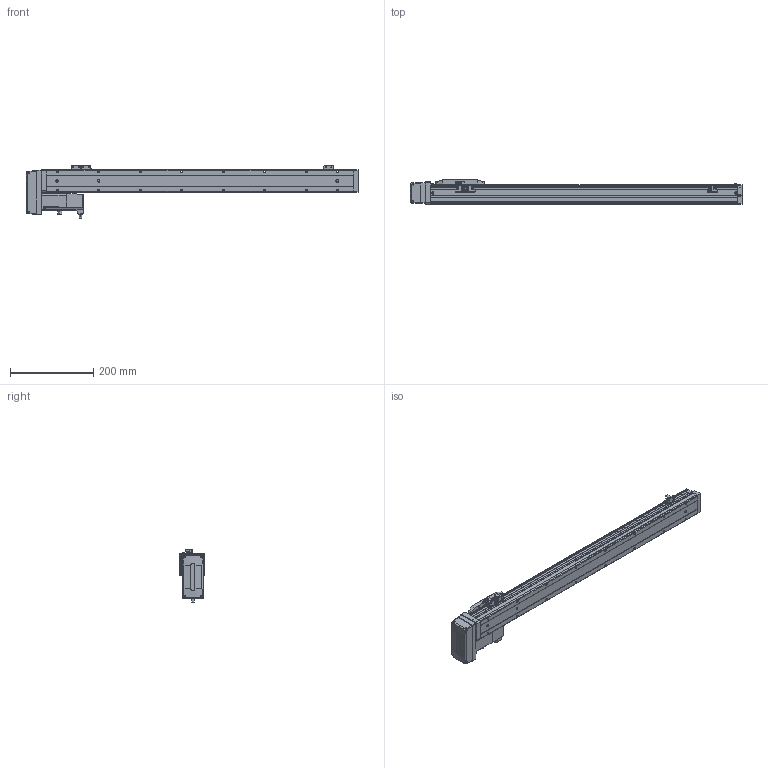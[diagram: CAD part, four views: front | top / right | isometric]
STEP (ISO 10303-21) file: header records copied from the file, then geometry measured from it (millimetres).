
FILE_DESCRIPTION (( 'STEP AP203' ), '1' );
FILE_NAME ('CTH5-L10-S600-BR-C10(¼ò).STEP', '2023-02-04T02:28:02', ( '' ), ( '' ), 'SwSTEP 2.0', 'SolidWorks 2018', '' );
FILE_SCHEMA (( 'CONFIG_CONTROL_DESIGN' ));
Length unit declared in the file: millimetre
Products named in the file (22): T10-p1; CTH5耜蚾蟀諉啣(潠); hex nuts, style 1-grades ab gb_GB_FASTENER_NUT_SNAB1 M3-N; CTH5綴耜啣; 葩璃 蚾饜极13^CTH8-L10-S50-BM-C40(潠)1; CTH5菁釱-L740; CTH嫖萇羲壽假蚾啣; CTH5耜晚蹟隊-1; M3｡｣; CTH100W假蚾啣; CTH5耜蚾欶; CTH5賑怢; 100W萇儂; CTH5-BL-T10_body5; CTH5耜晚蹟隊; 内六角圆柱头螺钉M3-2; 嫖萇羲壽郪磁1; PM-Y45; CTH5ヶ耜啣(潠); CTH5-L10-S600-BR-C10(潠); 葩璃 蚾饜极16^CTH5-L10-S600-BR-C10(潠); CTH5覜茼え
Assembly tree (37 placements, depth 4):
  CTH5-L10-S600-BR-C10(潠)
    CTH5綴耜啣
    CTH5賑怢
    CTH5ヶ耜啣(潠)
    CTH5菁釱-L740
    CTH5耜晚蹟隊  x2
    嫖萇羲壽郪磁1  x2
      CTH嫖萇羲壽假蚾啣
      PM-Y45
      M3｡｣
      内六角圆柱头螺钉M3-2
      hex nuts, style 1-grades ab gb_GB_FASTENER_NUT_SNAB1 M3-N
    CTH5覜茼え
    葩璃 蚾饜极13^CTH8-L10-S50-BM-C40(潠)1
      CTH嫖萇羲壽假蚾啣
      PM-Y45
      内六角圆柱头螺钉M3-2  x2
      M3｡｣  x2
      hex nuts, style 1-grades ab gb_GB_FASTENER_NUT_SNAB1 M3-N  x2
    CTH5耜晚蹟隊-1  x4
    葩璃 蚾饜极16^CTH5-L10-S600-BR-C10(潠)
      CTH5耜蚾蟀諉啣(潠)
      CTH5耜蚾欶
        CTH5-BL-T10_body5
      100W萇儂
        T10-p1
      CTH100W假蚾啣
Bounding box: 800 x 60 x 126.31 mm (x, y, z)
Volume: 1971947 mm3; surface area: 279714 mm2
Topology: 39 solids, 39 shells, 1619 faces, 4067 edges, 2624 vertices
Faces by surface type: plane 890, cylinder 472, cone 199, torus 40, bspline 18
Entity records: 37873 total; most frequent: CARTESIAN_POINT 7016, DIRECTION 5991, ORIENTED_EDGE 5758, EDGE_CURVE 2879, AXIS2_PLACEMENT_3D 2066, VECTOR 1859, LINE 1859, VERTEX_POINT 1852
